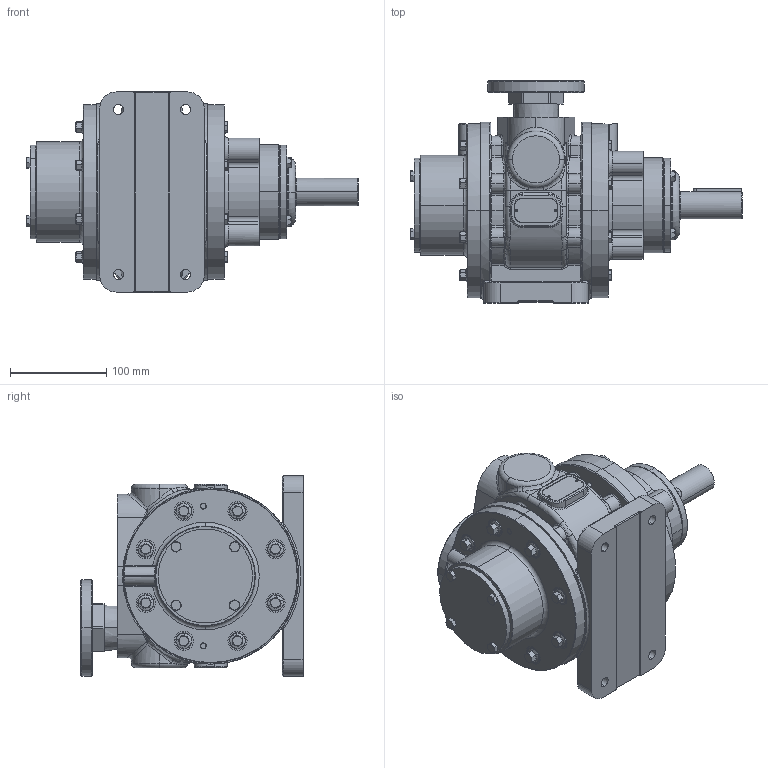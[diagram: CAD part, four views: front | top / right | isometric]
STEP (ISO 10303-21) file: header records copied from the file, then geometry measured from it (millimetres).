
FILE_DESCRIPTION (( 'STEP AP214' ), '1' );
FILE_NAME ('16VML-S-Face-Foot-SGI (22-04-26).STEP', '2026-04-23T06:53:39', ( '' ), ( '' ), 'SwSTEP 2.0', 'SolidWorks 2017', '' );
FILE_SCHEMA (( 'AUTOMOTIVE_DESIGN' ));
Length unit declared in the file: millimetre
Products named in the file (2): 16VML-S-Face-Foot-SGI (22-04-26)
Bounding box: 345.28 x 231 x 208 mm (x, y, z)
Volume: 2956729.5 mm3; surface area: 565257.9 mm2
Topology: 39 solids, 48 shells, 1988 faces, 4625 edges, 2713 vertices
Faces by surface type: cylinder 620, plane 470, cone 390, torus 240, bspline 222, sphere 46
Entity records: 398672 total; most frequent: CARTESIAN_POINT 204451, ORIENTED_EDGE 30266, DIRECTION 20965, EDGE_CURVE 15133, VERTEX_POINT 9689, EDGE_LOOP 8752, AXIS2_PLACEMENT_3D 7938, B_SPLINE_CURVE_WITH_KNOTS 7415
